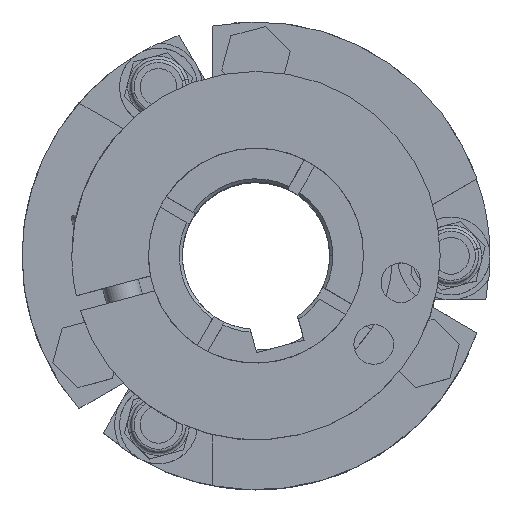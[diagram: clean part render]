
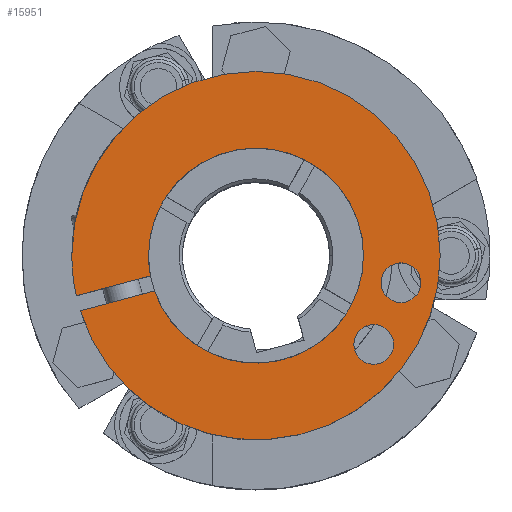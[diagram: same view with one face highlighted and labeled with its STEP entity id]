
A CAD part, top view. The second image highlights one B-rep face of the part: STEP entity #15951.
In plain terms, the highlighted planar face has unit normal (0, 0, 1).
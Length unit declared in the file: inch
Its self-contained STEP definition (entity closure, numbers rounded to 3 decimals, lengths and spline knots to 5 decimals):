
#250 = EDGE_CURVE ( 'NONE', #13863, #415, #11244, .T. ) ;
#396 = CARTESIAN_POINT ( 'NONE',  ( 0., 0., 1.25 ) ) ;
#415 = VERTEX_POINT ( 'NONE', #6234 ) ;
#575 = CARTESIAN_POINT ( 'NONE',  ( -1.12679, -0.35369, 1.25 ) ) ;
#989 = DIRECTION ( 'NONE',  ( 0., 0., 1. ) ) ;
#1222 = DIRECTION ( 'NONE',  ( 0., 0., 1. ) ) ;
#1242 = DIRECTION ( 'NONE',  ( 0.966, 0.259, 0. ) ) ;
#1401 = AXIS2_PLACEMENT_3D ( 'NONE', #4886, #13743, #6158 ) ;
#1474 = ORIENTED_EDGE ( 'NONE', *, *, #7842, .T. ) ;
#1510 = CIRCLE ( 'NONE', #7379, 0.1275 ) ;
#1665 = DIRECTION ( 'NONE',  ( 1., 0., 0. ) ) ;
#1811 = VERTEX_POINT ( 'NONE', #3231 ) ;
#1893 = AXIS2_PLACEMENT_3D ( 'NONE', #7372, #10967, #1913 ) ;
#1913 = DIRECTION ( 'NONE',  ( 1., 0., 0. ) ) ;
#2044 = AXIS2_PLACEMENT_3D ( 'NONE', #8793, #1222, #10058 ) ;
#2189 = ORIENTED_EDGE ( 'NONE', *, *, #9902, .T. ) ;
#2378 = DIRECTION ( 'NONE',  ( 0., 0., -1. ) ) ;
#2445 = ORIENTED_EDGE ( 'NONE', *, *, #4096, .T. ) ;
#2612 = EDGE_LOOP ( 'NONE', ( #14823, #3933 ) ) ;
#2629 = ORIENTED_EDGE ( 'NONE', *, *, #14793, .T. ) ;
#2638 = CARTESIAN_POINT ( 'NONE',  ( 1.0565, -0.174, 1.25 ) ) ;
#2723 = CARTESIAN_POINT ( 'NONE',  ( 0., 0., 1.25 ) ) ;
#2793 = AXIS2_PLACEMENT_3D ( 'NONE', #13380, #5790, #14627 ) ;
#2940 = EDGE_CURVE ( 'NONE', #8929, #9927, #12735, .T. ) ;
#2954 = DIRECTION ( 'NONE',  ( 0., 0., 1. ) ) ;
#2973 = VERTEX_POINT ( 'NONE', #13052 ) ;
#3231 = CARTESIAN_POINT ( 'NONE',  ( -0.65083, -0.22615, 1.25 ) ) ;
#3337 = DIRECTION ( 'NONE',  ( 0., 0., 1. ) ) ;
#3597 = AXIS2_PLACEMENT_3D ( 'NONE', #9956, #2378, #11215 ) ;
#3602 = ORIENTED_EDGE ( 'NONE', *, *, #14000, .T. ) ;
#3933 = ORIENTED_EDGE ( 'NONE', *, *, #8010, .F. ) ;
#3983 = DIRECTION ( 'NONE',  ( 1., 0., 0. ) ) ;
#4096 = EDGE_CURVE ( 'NONE', #1811, #5763, #8012, .T. ) ;
#4146 = FACE_BOUND ( 'NONE', #2612, .T. ) ;
#4162 = ORIENTED_EDGE ( 'NONE', *, *, #11948, .T. ) ;
#4164 = CIRCLE ( 'NONE', #6687, 1.181 ) ;
#4270 = VECTOR ( 'NONE', #8146, 39.37008 ) ;
#4772 = VERTEX_POINT ( 'NONE', #5872 ) ;
#4886 = CARTESIAN_POINT ( 'NONE',  ( 0., 0., 1.25 ) ) ;
#5427 = CARTESIAN_POINT ( 'NONE',  ( -1.12679, -0.35369, 1.25 ) ) ;
#5447 = CARTESIAN_POINT ( 'NONE',  ( 0., 0., 1.25 ) ) ;
#5763 = VERTEX_POINT ( 'NONE', #5427 ) ;
#5790 = DIRECTION ( 'NONE',  ( 0., 0., 1. ) ) ;
#5872 = CARTESIAN_POINT ( 'NONE',  ( -0.67671, -0.12956, 1.25 ) ) ;
#5941 = AXIS2_PLACEMENT_3D ( 'NONE', #2723, #11571, #3983 ) ;
#6158 = DIRECTION ( 'NONE',  ( 1., 0., 0. ) ) ;
#6234 = CARTESIAN_POINT ( 'NONE',  ( 0.8015, -0.174, 1.25 ) ) ;
#6475 = VECTOR ( 'NONE', #1242, 39.37008 ) ;
#6687 = AXIS2_PLACEMENT_3D ( 'NONE', #8559, #989, #9850 ) ;
#6717 = DIRECTION ( 'NONE',  ( 1., 0., 0. ) ) ;
#7107 = FACE_BOUND ( 'NONE', #9919, .T. ) ;
#7372 = CARTESIAN_POINT ( 'NONE',  ( 0.929, -0.174, 1.25 ) ) ;
#7379 = AXIS2_PLACEMENT_3D ( 'NONE', #10888, #3337, #12188 ) ;
#7546 = VERTEX_POINT ( 'NONE', #14758 ) ;
#7842 = EDGE_CURVE ( 'NONE', #9927, #4772, #16194, .T. ) ;
#8010 = EDGE_CURVE ( 'NONE', #2973, #9700, #11000, .T. ) ;
#8012 = LINE ( 'NONE', #575, #4270 ) ;
#8146 = DIRECTION ( 'NONE',  ( -0.966, -0.259, 0. ) ) ;
#8162 = EDGE_CURVE ( 'NONE', #9700, #2973, #1510, .T. ) ;
#8230 = AXIS2_PLACEMENT_3D ( 'NONE', #396, #9245, #1665 ) ;
#8559 = CARTESIAN_POINT ( 'NONE',  ( 0., 0., 1.25 ) ) ;
#8793 = CARTESIAN_POINT ( 'NONE',  ( 0.929, -0.174, 1.25 ) ) ;
#8929 = VERTEX_POINT ( 'NONE', #11544 ) ;
#9245 = DIRECTION ( 'NONE',  ( 0., 0., 1. ) ) ;
#9402 = AXIS2_PLACEMENT_3D ( 'NONE', #10515, #2954, #11796 ) ;
#9700 = VERTEX_POINT ( 'NONE', #11053 ) ;
#9850 = DIRECTION ( 'NONE',  ( 1., 0., 0. ) ) ;
#9902 = EDGE_CURVE ( 'NONE', #4772, #10501, #16275, .T. ) ;
#9919 = EDGE_LOOP ( 'NONE', ( #13787, #11668 ) ) ;
#9927 = VERTEX_POINT ( 'NONE', #14047 ) ;
#9956 = CARTESIAN_POINT ( 'NONE',  ( 0., 0., 1.25 ) ) ;
#10058 = DIRECTION ( 'NONE',  ( 1., 0., 0. ) ) ;
#10075 = CARTESIAN_POINT ( 'NONE',  ( -1.15268, -0.25709, 1.25 ) ) ;
#10381 = CIRCLE ( 'NONE', #2793, 1.181 ) ;
#10482 = ORIENTED_EDGE ( 'NONE', *, *, #2940, .T. ) ;
#10501 = VERTEX_POINT ( 'NONE', #10915 ) ;
#10515 = CARTESIAN_POINT ( 'NONE',  ( 0.755, -0.569, 1.25 ) ) ;
#10888 = CARTESIAN_POINT ( 'NONE',  ( 0.755, -0.569, 1.25 ) ) ;
#10915 = CARTESIAN_POINT ( 'NONE',  ( -0.689, 0., 1.25 ) ) ;
#10967 = DIRECTION ( 'NONE',  ( 0., 0., 1. ) ) ;
#11000 = CIRCLE ( 'NONE', #9402, 0.1275 ) ;
#11053 = CARTESIAN_POINT ( 'NONE',  ( 0.8825, -0.569, 1.25 ) ) ;
#11104 = AXIS2_PLACEMENT_3D ( 'NONE', #5447, #14303, #6717 ) ;
#11151 = EDGE_CURVE ( 'NONE', #415, #13863, #12640, .T. ) ;
#11215 = DIRECTION ( 'NONE',  ( 1., 0., 0. ) ) ;
#11244 = CIRCLE ( 'NONE', #1893, 0.1275 ) ;
#11544 = CARTESIAN_POINT ( 'NONE',  ( -1.181, 0., 1.25 ) ) ;
#11555 = CIRCLE ( 'NONE', #3597, 0.689 ) ;
#11571 = DIRECTION ( 'NONE',  ( 0., 0., -1. ) ) ;
#11668 = ORIENTED_EDGE ( 'NONE', *, *, #11151, .F. ) ;
#11796 = DIRECTION ( 'NONE',  ( 1., 0., 0. ) ) ;
#11948 = EDGE_CURVE ( 'NONE', #7546, #8929, #10381, .T. ) ;
#12188 = DIRECTION ( 'NONE',  ( 1., 0., 0. ) ) ;
#12413 = PLANE ( 'NONE',  #1401 ) ;
#12515 = ORIENTED_EDGE ( 'NONE', *, *, #13188, .T. ) ;
#12640 = CIRCLE ( 'NONE', #2044, 0.1275 ) ;
#12735 = CIRCLE ( 'NONE', #8230, 1.181 ) ;
#12895 = EDGE_LOOP ( 'NONE', ( #2629, #4162, #10482, #1474, #2189, #12515, #3602, #2445 ) ) ;
#13052 = CARTESIAN_POINT ( 'NONE',  ( 0.6275, -0.569, 1.25 ) ) ;
#13106 = CIRCLE ( 'NONE', #11104, 0.689 ) ;
#13188 = EDGE_CURVE ( 'NONE', #10501, #14068, #11555, .T. ) ;
#13380 = CARTESIAN_POINT ( 'NONE',  ( 0., 0., 1.25 ) ) ;
#13743 = DIRECTION ( 'NONE',  ( 0., 0., 1. ) ) ;
#13787 = ORIENTED_EDGE ( 'NONE', *, *, #250, .F. ) ;
#13840 = FACE_OUTER_BOUND ( 'NONE', #12895, .T. ) ;
#13863 = VERTEX_POINT ( 'NONE', #2638 ) ;
#14000 = EDGE_CURVE ( 'NONE', #14068, #1811, #13106, .T. ) ;
#14047 = CARTESIAN_POINT ( 'NONE',  ( -1.15268, -0.25709, 1.25 ) ) ;
#14068 = VERTEX_POINT ( 'NONE', #14448 ) ;
#14303 = DIRECTION ( 'NONE',  ( 0., 0., -1. ) ) ;
#14448 = CARTESIAN_POINT ( 'NONE',  ( 0.689, 0., 1.25 ) ) ;
#14627 = DIRECTION ( 'NONE',  ( 1., 0., 0. ) ) ;
#14758 = CARTESIAN_POINT ( 'NONE',  ( 1.181, 0., 1.25 ) ) ;
#14793 = EDGE_CURVE ( 'NONE', #5763, #7546, #4164, .T. ) ;
#14823 = ORIENTED_EDGE ( 'NONE', *, *, #8162, .F. ) ;
#15951 = ADVANCED_FACE ( 'NONE', ( #7107, #4146, #13840 ), #12413, .T. ) ;
#16194 = LINE ( 'NONE', #10075, #6475 ) ;
#16275 = CIRCLE ( 'NONE', #5941, 0.689 ) ;
